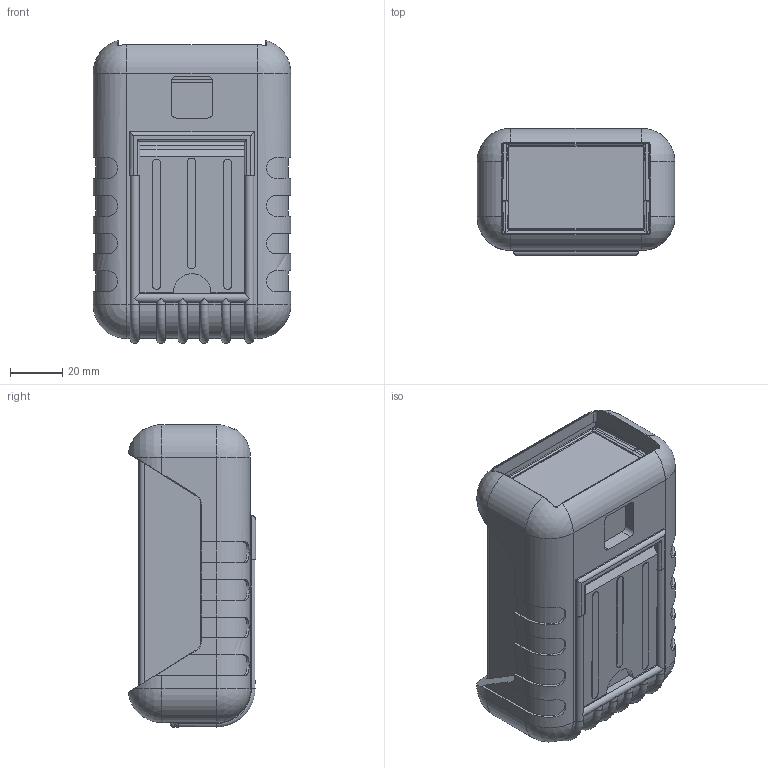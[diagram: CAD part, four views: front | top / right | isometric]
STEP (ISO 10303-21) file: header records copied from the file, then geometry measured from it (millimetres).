
FILE_DESCRIPTION (( 'STEP AP214' ), '1' );
FILE_NAME ('40-32-NO-R-BO.STEP', '2020-09-21T19:02:41', ( 'Rudy' ), ( '' ), 'SwSTEP 2.0', 'SolidWorks 2014', '' );
FILE_SCHEMA (( 'AUTOMOTIVE_DESIGN' ));
Length unit declared in the file: millimetre
Products named in the file (8): 40-bottom-NO; 40-32-NO-R-BO; 40 RBD High Boot; 40 RBD Stand; 40 RBD High; 40 PC No Bat; panel tall; 40-top-deep-recessed
Assembly tree (7 placements, depth 3):
  40-32-NO-R-BO
    40-bottom-NO
    40-top-deep-recessed
    panel tall
    40 PC No Bat
    40 RBD High Boot
      40 RBD High
      40 RBD Stand
Bounding box: 76 x 48.92 x 116.35 mm (x, y, z)
Volume: 151363.2 mm3; surface area: 99637 mm2
Topology: 6 solids, 6 shells, 839 faces, 2174 edges, 1329 vertices
Faces by surface type: plane 386, cylinder 301, torus 55, bspline 40, sphere 36, cone 21
Entity records: 27107 total; most frequent: CARTESIAN_POINT 6726, ORIENTED_EDGE 4284, DIRECTION 4197, EDGE_CURVE 2142, AXIS2_PLACEMENT_3D 1466, VERTEX_POINT 1329, VECTOR 1265, LINE 1265
